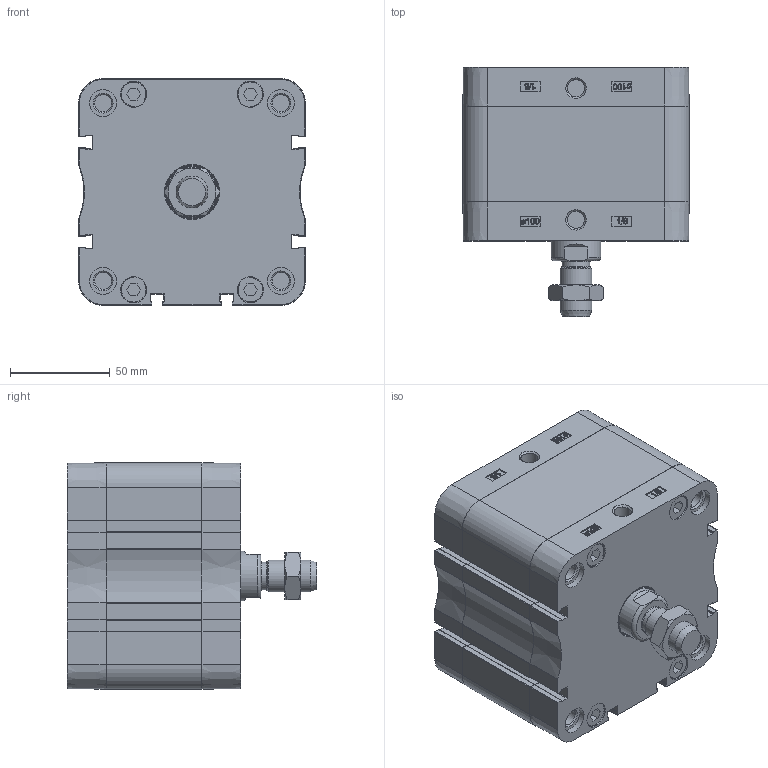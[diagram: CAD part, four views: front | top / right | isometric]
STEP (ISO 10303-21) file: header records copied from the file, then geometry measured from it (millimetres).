
FILE_DESCRIPTION(/* description */ ('Unknown'),/* implementation_level */ '2;1');
FILE_NAME(/* name */ 'ZEF 100_20',/* time_stamp */ '2024-09-12T08:31:25+02:00',/* author */ ('Unknown'),/* organization */ ('Unknown'),/* preprocessor_version */ 'ST-DEVELOPER v16.7',/* originating_system */ 'Solid Edge',/* authorisation */ 'Unknown');
FILE_SCHEMA (('AUTOMOTIVE_DESIGN {1 0 10303 214 3 1 1}'));
Length unit declared in the file: millimetre
Products named in the file (6): ZEF 100_20; Kit_2; Profilrohr; Kolbenstange; Kit_1; Mutter
Assembly tree (5 placements, depth 2):
  ZEF 100_20
    Kit_2
    Profilrohr
    Kolbenstange
    Kit_1
    Mutter
Bounding box: 113.5 x 125 x 113.5 mm (x, y, z)
Volume: 924561.5 mm3; surface area: 162222.6 mm2
Topology: 5 solids, 5 shells, 768 faces, 2060 edges, 1368 vertices
Faces by surface type: plane 360, cylinder 216, bspline 114, cone 56, torus 22
Full cylindrical faces by diameter (mm): 8.376 x8, 8.566 x2, 12 x1, 12.7 x4, 13.1 x8, 13.5 x8, 14 x1, 14.376 x1, 16 x1, 25 x1, 25.6 x1, 26.9 x1, 28 x1, 29.8 x1, 30 x1, 100 x2
Entity records: 29078 total; most frequent: CARTESIAN_POINT 6117, ORIENTED_EDGE 3876, DIRECTION 3478, EDGE_CURVE 1938, VERTEX_POINT 1336, AXIS2_PLACEMENT_3D 1185, LINE 1108, VECTOR 1108
